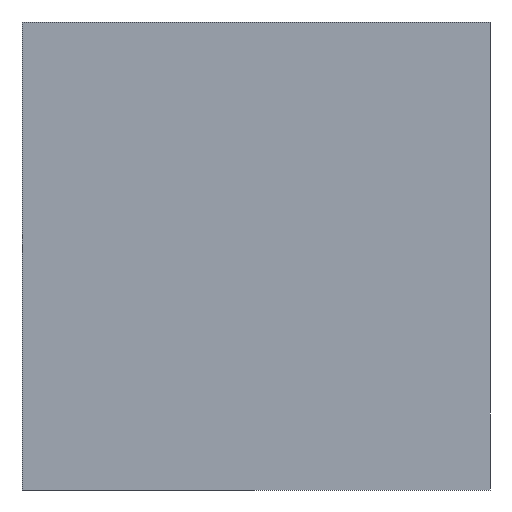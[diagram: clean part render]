
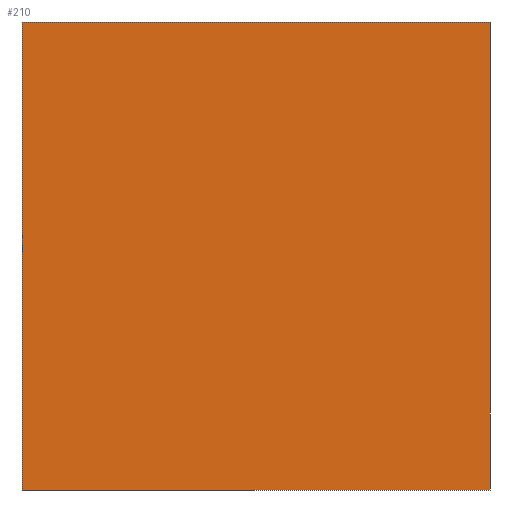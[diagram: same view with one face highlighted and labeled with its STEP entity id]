
A CAD part, left-side view. The second image highlights one B-rep face of the part: STEP entity #210.
In plain terms, the highlighted planar face has unit normal (-1, 0, 0).
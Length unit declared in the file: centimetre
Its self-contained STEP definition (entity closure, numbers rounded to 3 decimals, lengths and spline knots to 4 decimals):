
#7 = ORIENTED_EDGE ( 'NONE', *, *, #562, .F. ) ;
#28 = CARTESIAN_POINT ( 'NONE',  ( 0., 1000., 1000. ) ) ;
#76 = DIRECTION ( 'NONE',  ( 0., 0., -1. ) ) ;
#121 = LINE ( 'NONE', #309, #408 ) ;
#140 = ORIENTED_EDGE ( 'NONE', *, *, #540, .T. ) ;
#146 = VERTEX_POINT ( 'NONE', #245 ) ;
#165 = CARTESIAN_POINT ( 'NONE',  ( 0., 1000., 1000. ) ) ;
#174 = CARTESIAN_POINT ( 'NONE',  ( 0., 0., 0. ) ) ;
#210 = ADVANCED_FACE ( 'NONE', ( #479 ), #262, .F. ) ;
#218 = DIRECTION ( 'NONE',  ( 0., 0., -1. ) ) ;
#233 = AXIS2_PLACEMENT_3D ( 'NONE', #165, #527, #76 ) ;
#245 = CARTESIAN_POINT ( 'NONE',  ( 0., 1000., 0. ) ) ;
#262 = PLANE ( 'NONE',  #233 ) ;
#267 = VECTOR ( 'NONE', #218, 100. ) ;
#309 = CARTESIAN_POINT ( 'NONE',  ( 0., 0., 1000. ) ) ;
#331 = VERTEX_POINT ( 'NONE', #174 ) ;
#353 = DIRECTION ( 'NONE',  ( 0., -1., 0. ) ) ;
#358 = VERTEX_POINT ( 'NONE', #567 ) ;
#383 = ORIENTED_EDGE ( 'NONE', *, *, #537, .T. ) ;
#392 = CARTESIAN_POINT ( 'NONE',  ( 0., 1000., 1000. ) ) ;
#393 = CARTESIAN_POINT ( 'NONE',  ( 0., 1000., 0. ) ) ;
#397 = CARTESIAN_POINT ( 'NONE',  ( 0., 0., 1000. ) ) ;
#408 = VECTOR ( 'NONE', #480, 100. ) ;
#438 = LINE ( 'NONE', #393, #525 ) ;
#446 = LINE ( 'NONE', #28, #267 ) ;
#450 = VERTEX_POINT ( 'NONE', #397 ) ;
#465 = ORIENTED_EDGE ( 'NONE', *, *, #491, .F. ) ;
#479 = FACE_OUTER_BOUND ( 'NONE', #495, .T. ) ;
#480 = DIRECTION ( 'NONE',  ( 0., 0., -1. ) ) ;
#491 = EDGE_CURVE ( 'NONE', #358, #450, #494, .T. ) ;
#494 = LINE ( 'NONE', #392, #505 ) ;
#495 = EDGE_LOOP ( 'NONE', ( #140, #7, #465, #383 ) ) ;
#505 = VECTOR ( 'NONE', #571, 100. ) ;
#525 = VECTOR ( 'NONE', #353, 100. ) ;
#527 = DIRECTION ( 'NONE',  ( 1., 0., 0. ) ) ;
#537 = EDGE_CURVE ( 'NONE', #358, #146, #446, .T. ) ;
#540 = EDGE_CURVE ( 'NONE', #146, #331, #438, .T. ) ;
#562 = EDGE_CURVE ( 'NONE', #450, #331, #121, .T. ) ;
#567 = CARTESIAN_POINT ( 'NONE',  ( 0., 1000., 1000. ) ) ;
#571 = DIRECTION ( 'NONE',  ( 0., -1., 0. ) ) ;
